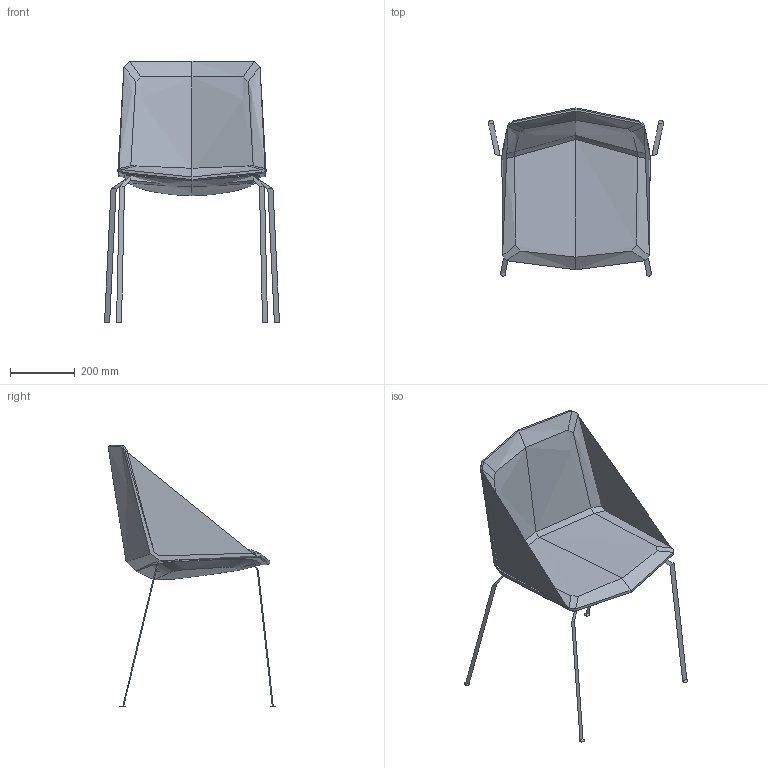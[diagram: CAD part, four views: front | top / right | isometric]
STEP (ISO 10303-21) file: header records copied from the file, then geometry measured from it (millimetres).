
FILE_DESCRIPTION(/* description */ (''),/* implementation_level */ '2;1');
FILE_NAME(/* name */ 'SKYFRE~1',/* time_stamp */ '2016-02-19T12:23:59+01:00',/* author */ (''),/* organization */ (''),/* preprocessor_version */ 'ST-DEVELOPER v15',/* originating_system */ '',/* authorisation */ '');
FILE_SCHEMA (('CONFIG_CONTROL_DESIGN'));
Length unit declared in the file: millimetre
Products named in the file (1): Document
Bounding box: 540.02 x 517.88 x 807.23 mm (x, y, z)
Volume: 9416781.3 mm3; surface area: 1057132.4 mm2
Topology: 5 solids, 12 shells, 126 faces, 286 edges, 172 vertices
Faces by surface type: bspline 112, plane 14
Entity records: 15886 total; most frequent: CARTESIAN_POINT 14152, ORIENTED_EDGE 528, EDGE_CURVE 283, VERTEX_POINT 172, B_SPLINE_CURVE_WITH_KNOTS 145, ADVANCED_FACE 126, FACE_OUTER_BOUND 126, EDGE_LOOP 126
